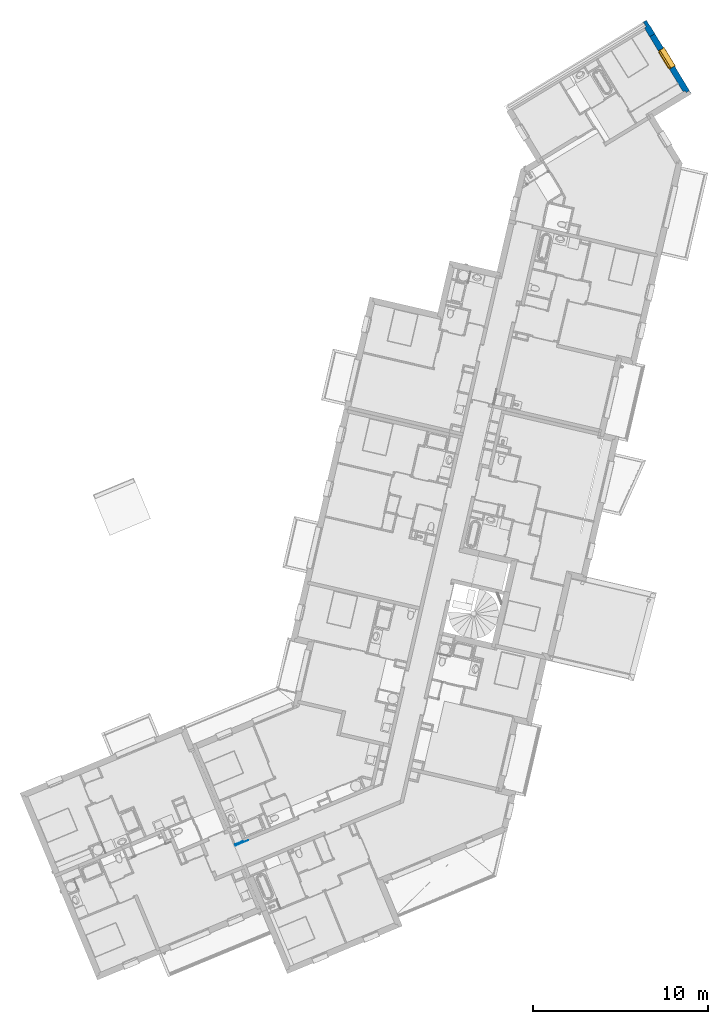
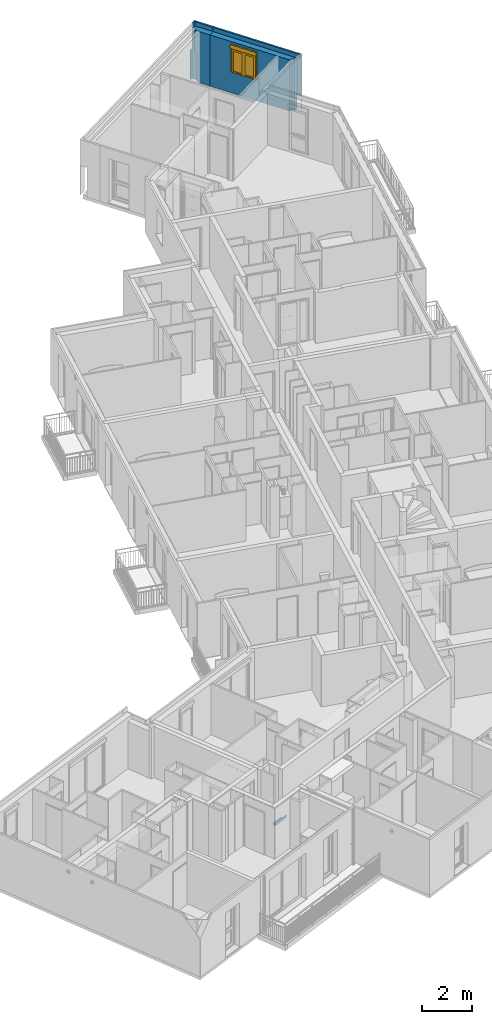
# One storey, part 57 of 90: 3 walls, 1 window, 1 opening.
"""IFC2X3 building model written with IfcOpenShell, lengths in metres."""

from ifc_helpers import new_model, entity, si_unit, converted_unit, derived_unit, money_unit, direction, frame, origin_with_axes, place, context, subcontext, project, spatial, open_shell, faceted_brep, surface_model, material, material_list, type_object, element, fill, save


model = new_model("IFC2X3")

# Units and contexts
model_context = context("Model", 3, precision=1e-05, world=origin_with_axes(), true_north=direction((0.0, 1.0)))
body_context = subcontext(model_context, "Body", "Model", "MODEL_VIEW")
ifc_project = project(units=[si_unit("LENGTHUNIT", "METRE"), si_unit("AREAUNIT", "SQUARE_METRE"), si_unit("VOLUMEUNIT", "CUBIC_METRE"), converted_unit("PLANEANGLEUNIT", "DEGREE", entity("IfcPlaneAngleMeasure", 0.0174532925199), si_unit("PLANEANGLEUNIT", "RADIAN"), dimensions=[0, 0, 0, 0, 0, 0, 0]), si_unit("SOLIDANGLEUNIT", "STERADIAN"), money_unit("EUR"), converted_unit("TIMEUNIT", "Year", entity("IfcTimeMeasure", 31556926.0), si_unit("TIMEUNIT", "SECOND"), dimensions=[0, 0, 1, 0, 0, 0, 0]), si_unit("MASSUNIT", "GRAM", prefix="KILO"), si_unit("THERMODYNAMICTEMPERATUREUNIT", "DEGREE_CELSIUS"), si_unit("LUMINOUSINTENSITYUNIT", "LUMEN"), si_unit("ENERGYUNIT", "JOULE", prefix="MEGA"), derived_unit("THERMALCONDUCTANCEUNIT", [(si_unit("POWERUNIT", "WATT"), 1), (si_unit("LENGTHUNIT", "METRE"), -1), (si_unit("THERMODYNAMICTEMPERATUREUNIT", "KELVIN"), -1)]), derived_unit("SPECIFICHEATCAPACITYUNIT", [(si_unit("ENERGYUNIT", "JOULE"), 1), (si_unit("MASSUNIT", "GRAM", prefix="KILO"), -1), (si_unit("THERMODYNAMICTEMPERATUREUNIT", "KELVIN"), -1)]), derived_unit("MASSDENSITYUNIT", [(si_unit("MASSUNIT", "GRAM", prefix="KILO"), 1), (si_unit("VOLUMEUNIT", "CUBIC_METRE"), -1)])], contexts=[model_context])

# Site, building, storey
site_placement = place(None, origin_with_axes())
site = spatial("IfcSite", under=ifc_project, at=site_placement, Name="Site", CompositionType="ELEMENT")
building_placement = place(site_placement, origin_with_axes())
building = spatial("IfcBuilding", under=site, at=building_placement, Name="Bâtiment", CompositionType="ELEMENT")
storey_placement = place(building_placement, frame((0.0, 0.0, 2.72), z_axis=(0.0, 0.0, 1.0), x_axis=(1.0, 0.0, 0.0)))
storey = spatial("IfcBuildingStorey", under=building, at=storey_placement, Name="R+1", CompositionType="ELEMENT", Elevation=2.72)

# Wall, opening, window
ifc_material_1 = material(Name="Finition ext - Crépis")
ifc_material_2 = material(Name="Béton cellulaire")
ifc_material_3 = material(Name="Mortier")
ifc_material_4 = material(Name="Isolation - Polystyrène expansé")
ifc_material_5 = material(Name="Bloc ELITHERM")
ifc_material_6 = material(Name="Isolation - Polystyrène extrudé")
ifc_material_7 = material(Name="Finition int - Plaque de plâtre")
ifc_material_list_1 = material_list([ifc_material_1, ifc_material_2, ifc_material_3, ifc_material_4, ifc_material_5, ifc_material_6, ifc_material_7])
wall_type_1 = type_object("IfcWallType", Name="Mur ALKERN + planelle 21 345 x 2720", PredefinedType="USERDEFINED")
wall_1_placement = place(storey_placement, frame((0.808991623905, 25.3805096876, 0.0), z_axis=(0.0, 0.0, 1.0), x_axis=(0.519386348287, -0.854539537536, 0.0)))
wall_1 = element("IfcWall", 1, at=wall_1_placement, inside=storey, type_object=wall_type_1, material=ifc_material_list_1, Name="Mue bloc ALKERN isolé", ObjectType="SOLIDWALL", context=body_context, shape_type="Brep", body=[
    faceted_brep([(0.0, 0.0, 0.5), (3.79520777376, 0.0, 0.5), (3.79520777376, 0.0, 0.0), (0.0, 0.0, 0.0), (3.79520777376, -0.0150000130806, 0.5), (0.0, -0.0150000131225, 0.5), (3.79520777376, -0.0150000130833, 0.0), (0.0, -0.0149999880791, 0.0)], [[[0, 1, 2, 3]], [[4, 1, 0, 5]], [[1, 4, 6, 2]], [[3, 2, 6, 7]], [[5, 0, 3, 7]], [[4, 5, 7, 6]]]),
    faceted_brep([(3.99520777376, 0.0, 0.5), (3.99939258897, 0.0, 0.5), (3.99939258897, 0.0, 0.0), (3.99520777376, 0.0, 0.0), (3.99939258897, -0.0150000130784, 0.5), (3.99520777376, -0.0150000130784, 0.5), (3.99939258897, -0.0149999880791, 0.0), (3.99520777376, -0.0150000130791, 0.0)], [[[0, 1, 2, 3]], [[4, 1, 0, 5]], [[1, 4, 6, 2]], [[6, 7, 3, 2]], [[5, 0, 3, 7]], [[4, 5, 7, 6]]]),
    faceted_brep([(0.0, 0.0, 2.72), (3.99939258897, 0.0, 2.72), (3.99939258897, 0.0, 0.65), (0.0, 0.0, 0.65), (0.954999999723, 0.0, 0.96), (2.15499999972, 0.0, 0.96), (2.15499999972, 0.0, 1.02), (2.15499999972, 0.0, 2.22), (0.954999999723, 0.0, 2.22), (0.954999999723, 0.0, 1.02), (0.0, -0.0149999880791, 2.72), (3.99939258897, -0.0149999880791, 2.72), (3.99939258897, -0.0150000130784, 0.65), (0.0, -0.0150000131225, 0.65), (0.954999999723, -0.0150000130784, 0.96), (2.15499999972, -0.0150000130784, 0.96), (2.15499999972, -0.0150000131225, 1.02), (2.15499999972, -0.0150000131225, 2.22), (0.954999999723, -0.0150000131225, 2.22), (0.954999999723, -0.0150000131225, 1.02)], [[[0, 1, 2, 3], [4, 5, 6, 7, 8, 9]], [[1, 0, 10, 11]], [[1, 11, 12, 2]], [[12, 13, 3, 2]], [[10, 0, 3, 13]], [[5, 4, 14, 15]], [[6, 5, 15, 16, 17, 7]], [[7, 17, 18, 8]], [[19, 14, 4, 9, 8, 18]], [[11, 10, 13, 12], [14, 19, 18, 17, 16, 15]]]),
    faceted_brep([(3.95139257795, -0.0629999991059, 2.72), (3.95139257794, -0.015, 2.72), (0.0, -0.015, 2.72), (0.0, -0.0629999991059, 2.72), (3.95139257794, -0.015, 2.51999999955), (3.95139257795, -0.0629999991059, 2.51999999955), (0.0, -0.015, 2.51999999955), (0.0, -0.0629999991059, 2.51999999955)], [[[0, 1, 2, 3]], [[4, 1, 0, 5]], [[1, 4, 6, 2]], [[6, 7, 3, 2]], [[5, 0, 3, 7]], [[4, 5, 7, 6]]]),
    faceted_brep([(3.93139257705, -0.083, 2.52), (3.93139257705, -0.015, 2.52), (0.0, -0.015, 2.52), (0.0, -0.083, 2.52), (3.93139257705, -0.015, 2.51), (3.93139257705, -0.083, 2.51), (0.0, -0.015, 2.51), (0.0, -0.083, 2.51)], [[[0, 1, 2, 3]], [[4, 1, 0, 5]], [[1, 4, 6, 2]], [[7, 3, 2, 6]], [[5, 0, 3, 7]], [[4, 5, 7, 6]]]),
    faceted_brep([(0.0, -0.083000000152, 2.72), (3.9313925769, -0.083000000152, 2.72), (3.9313925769, -0.0630000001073, 2.72), (0.0, -0.0630000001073, 2.72), (0.0, -0.083000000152, 2.51999999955), (3.9313925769, -0.083000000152, 2.51999999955), (3.9313925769, -0.0630000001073, 2.51999999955), (0.0, -0.0630000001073, 2.51999999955)], [[[0, 1, 2, 3]], [[4, 5, 1, 0]], [[5, 6, 2, 1]], [[3, 2, 6, 7]], [[4, 0, 3, 7]], [[7, 6, 5, 4]]]),
    faceted_brep([(0.0, -0.015, 0.0), (0.0, -0.015, 2.50999999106), (3.79939258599, -0.015, 2.50999999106), (3.79939258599, -0.015, 0.0), (0.954999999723, -0.015, 0.96), (2.15499999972, -0.015, 0.96), (2.15499999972, -0.015, 1.02), (2.15499999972, -0.015, 2.22), (0.954999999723, -0.015, 2.22), (0.954999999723, -0.015, 1.02), (0.0, -0.214999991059, 2.50999999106), (0.0, -0.0829999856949, 2.50999999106), (0.0, -0.214999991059, 0.0), (3.79939258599, -0.0829999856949, 2.50999999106), (3.799392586, -0.214999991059, 0.0), (3.799392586, -0.214999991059, 2.50999999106), (0.954999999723, -0.214999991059, 0.96), (2.15499999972, -0.214999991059, 0.96), (2.15499999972, -0.214999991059, 1.02), (2.15499999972, -0.214999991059, 2.22), (0.954999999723, -0.214999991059, 2.22), (0.954999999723, -0.214999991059, 1.02)], [[[0, 1, 2, 3], [4, 5, 6, 7, 8, 9]], [[10, 11, 1, 0, 12]], [[1, 11, 13, 2]], [[14, 3, 2, 13, 15]], [[12, 0, 3, 14]], [[5, 4, 16, 17]], [[6, 5, 17, 18, 19, 7]], [[7, 19, 20, 8]], [[21, 16, 4, 9, 8, 20]], [[11, 10, 15, 13]], [[10, 12, 14, 15], [16, 21, 20, 19, 18, 17]]]),
    faceted_brep([(0.0, -0.215000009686, 2.51), (3.67939256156, -0.215000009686, 2.51), (3.67939256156, -0.215000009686, 0.0), (0.0, -0.215000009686, 0.0), (0.954999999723, -0.215000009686, 0.96), (2.15499999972, -0.215000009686, 0.96), (2.15499999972, -0.215000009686, 1.02), (2.15499999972, -0.215, 2.22), (2.15499999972, -0.215, 2.4), (0.954999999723, -0.215, 2.4), (0.954999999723, -0.215, 2.22), (0.954999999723, -0.215000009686, 1.02), (0.0, -0.335000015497, 2.51), (3.67939256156, -0.335000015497, 2.51), (3.67939256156, -0.335000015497, 0.0), (0.0, -0.335000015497, 0.0), (0.954999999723, -0.286, 0.96), (2.15499999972, -0.286, 0.96), (2.15499999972, -0.286, 1.02), (2.15499999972, -0.335000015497, 1.02), (2.15499999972, -0.335000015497, 2.22), (2.15499999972, -0.335000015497, 2.4), (0.954999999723, -0.335000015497, 2.4), (0.954999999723, -0.286, 1.02), (0.954999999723, -0.335000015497, 2.22), (0.954999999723, -0.335000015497, 1.02)], [[[0, 1, 2, 3], [4, 5, 6, 7, 8, 9, 10, 11]], [[12, 13, 1, 0]], [[14, 2, 1, 13]], [[3, 2, 14, 15]], [[3, 15, 12, 0]], [[5, 4, 16, 17]], [[6, 5, 17, 18, 19, 20, 21, 8, 7]], [[8, 21, 22, 9]], [[23, 16, 4, 11, 10, 9, 22, 24, 25]], [[15, 14, 13, 12], [25, 24, 22, 21, 20, 19]], [[23, 18, 17, 16]], [[18, 23, 25, 19]]]),
    faceted_brep([(3.66939258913, -0.335000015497, 0.0), (0.0, -0.335000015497, 0.0), (0.0, -0.335000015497, 2.51), (3.66939258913, -0.335000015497, 2.51), (0.954999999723, -0.335000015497, 2.4), (0.954999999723, -0.335000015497, 2.22), (0.954999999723, -0.335000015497, 1.02), (2.15499999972, -0.335000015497, 1.02), (2.15499999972, -0.335000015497, 2.22), (2.15499999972, -0.335000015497, 2.4), (3.66939258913, -0.34499998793, 0.0), (0.0, -0.34499998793, 0.0), (0.0, -0.34499998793, 2.51), (3.66939258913, -0.34499998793, 2.51), (0.954999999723, -0.34499998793, 2.4), (0.954999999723, -0.34499998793, 2.22), (0.954999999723, -0.34499998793, 1.02), (2.15499999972, -0.34499998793, 1.02), (2.15499999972, -0.34499998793, 2.22), (2.15499999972, -0.34499998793, 2.4)], [[[0, 1, 2, 3], [4, 5, 6, 7, 8, 9]], [[10, 11, 1, 0]], [[12, 2, 1, 11]], [[3, 2, 12, 13]], [[3, 13, 10, 0]], [[5, 4, 14, 15, 16, 6]], [[6, 16, 17, 7]], [[18, 19, 9, 8, 7, 17]], [[4, 9, 19, 14]], [[13, 12, 11, 10], [19, 18, 17, 16, 15, 14]]]),
])
opening_placement = place(wall_1_placement, frame((1.55499999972, 0.0, 1.02), z_axis=(0.0, 0.0, 1.0), x_axis=(1.0, 0.0, 0.0)))
opening = element("IfcOpeningElement", 2, at=opening_placement, cuts=wall_1, Name="MEN 40", context=body_context, shape_type="Brep", body=[
    faceted_brep([(-0.6, -0.83499998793, 0.0), (-0.6, -0.83499998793, 1.2), (-0.6, -0.245, 1.2), (-0.6, -0.245, 0.0), (0.6, -0.83499998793, 0.0), (0.6, -0.83499998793, 1.2), (0.6, -0.245, 1.2), (0.6, -0.245, 0.0)], [[[0, 1, 2, 3]], [[0, 4, 5, 1]], [[1, 5, 6, 2]], [[3, 2, 6, 7]], [[4, 0, 3, 7]], [[5, 4, 7, 6]]]),
    faceted_brep([(-0.6, 0.34499998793, 0.0), (0.6, 0.34499998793, 0.0), (0.6, -0.245, 0.0), (-0.6, -0.245, 0.0), (-0.6, 0.34499998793, 1.2), (0.6, 0.34499998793, 1.2), (0.6, -0.245, 1.2), (-0.6, -0.245, 1.2)], [[[0, 1, 2, 3]], [[0, 4, 5, 1]], [[1, 5, 6, 2]], [[3, 2, 6, 7]], [[4, 0, 3, 7]], [[5, 4, 7, 6]]]),
    faceted_brep([(-0.6, 0.34499998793, 0.0), (0.6, 0.34499998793, 0.0), (0.6, -0.245, 0.0), (-0.6, -0.245, 0.0), (-0.6, 0.34499998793, 1.2), (0.6, 0.34499998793, 1.2), (0.6, -0.245, 1.2), (-0.6, -0.245, 1.2)], [[[0, 1, 2, 3]], [[0, 4, 5, 1]], [[1, 5, 6, 2]], [[3, 2, 6, 7]], [[4, 0, 3, 7]], [[5, 4, 7, 6]]]),
    faceted_brep([(-0.6, -0.80499998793, 1.2), (-0.6, -0.80499998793, 1.38), (-0.6, -0.215, 1.38), (-0.6, -0.215, 1.2), (0.6, -0.80499998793, 1.2), (0.6, -0.80499998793, 1.38), (0.6, -0.215, 1.38), (0.6, -0.215, 1.2)], [[[0, 1, 2, 3]], [[0, 4, 5, 1]], [[1, 5, 6, 2]], [[3, 2, 6, 7]], [[4, 0, 3, 7]], [[5, 4, 7, 6]]]),
    faceted_brep([(-0.6, 0.30399998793, 0.0), (-0.6, 0.30399998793, -0.06), (-0.6, -0.286, -0.06), (-0.6, -0.286, 0.0), (0.6, 0.30399998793, 0.0), (0.6, 0.30399998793, -0.06), (0.6, -0.286, -0.06), (0.6, -0.286, 0.0)], [[[0, 1, 2, 3]], [[0, 4, 5, 1]], [[1, 5, 6, 2]], [[3, 2, 6, 7]], [[4, 0, 3, 7]], [[5, 4, 7, 6]]]),
])
window_style = type_object("IfcWindowStyle", Name="Baie générique 2017 v2", ConstructionType="NOTDEFINED", OperationType="NOTDEFINED", ParameterTakesPrecedence=False, Sizeable=False)
window_placement = place(opening_placement, frame((-0.6, 0.0, 0.0), z_axis=(0.0, 0.0, 1.0), x_axis=(1.0, 0.0, 0.0)))
window = element("IfcWindow", 3, at=window_placement, inside=storey, type_object=window_style, Name="MEN 40", ObjectType="WINDOW", OverallHeight=1.2, OverallWidth=1.2, context=body_context, shape_type="SurfaceModel", body=[
    faceted_brep([(0.0, -0.345, 0.0), (0.0, -0.245, 0.0), (1.2, -0.245, 0.0), (1.2, -0.345, 0.0), (0.0, -0.345, 1.2), (0.0, -0.245, 1.2), (1.2, -0.245, 1.2), (0.06, -0.245, 0.05), (1.14, -0.245, 0.05), (1.14, -0.245, 1.15), (0.06, -0.245, 1.15), (1.2, -0.345, 1.2), (0.06, -0.345, 0.05), (0.06, -0.345, 1.15), (1.14, -0.345, 1.15), (1.14, -0.345, 0.05)], [[[0, 1, 2, 3]], [[4, 5, 1, 0]], [[1, 5, 6, 2], [7, 8, 9, 10]], [[3, 2, 6, 11]], [[0, 3, 11, 4], [12, 13, 14, 15]], [[11, 6, 5, 4]], [[15, 8, 7, 12]], [[14, 9, 8, 15]], [[13, 10, 9, 14]], [[12, 7, 10, 13]]]),
    faceted_brep([(1.07, -0.335, 1.08), (1.07, -0.335, 0.1), (1.07, -0.385, 0.1), (1.07, -0.385, 1.08), (1.14, -0.335, 1.15), (1.14, -0.335, 0.05), (0.6001, -0.335, 0.05), (0.6001, -0.335, 1.15), (0.67, -0.335, 1.08), (0.67, -0.335, 0.1), (0.67, -0.385, 0.1), (1.15001249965, -0.385000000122, 0.039987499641), (1.15001249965, -0.385000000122, 1.16001250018), (0.6001, -0.385000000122, 1.16001250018), (0.6001, -0.385000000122, 0.039987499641), (0.67, -0.385, 1.08), (1.14, -0.34505, 0.05), (1.14, -0.34505, 1.15), (0.6001, -0.34505, 0.05), (0.6001, -0.34505, 1.17), (0.6001, -0.34505, 1.15), (0.6001, -0.34505, 0.03), (1.16, -0.34505, 0.03), (1.16, -0.34505, 1.17)], [[[0, 1, 2, 3]], [[4, 5, 6, 7], [0, 8, 9, 1]], [[9, 10, 2, 1]], [[11, 12, 13, 14], [2, 10, 15, 3]], [[8, 0, 3, 15]], [[16, 5, 4, 17]], [[18, 6, 5, 16]], [[13, 19, 20, 7, 6, 18, 21, 14]], [[17, 4, 7, 20]], [[8, 15, 10, 9]], [[12, 11, 22, 23]], [[19, 13, 12, 23]], [[11, 14, 21, 22]], [[23, 22, 21, 18, 16, 17, 20, 19]]]),
    surface_model("IfcShellBasedSurfaceModel", [(1.14, -0.385, 0.05), (1.14, -0.385, 1.15), (1.14, -0.36, 1.15), (1.14, -0.36, 0.05)], [open_shell([[[0, 1, 2, 3]]])]),
    surface_model("IfcShellBasedSurfaceModel", [(0.6001, -0.36, 0.05), (0.6001, -0.385, 0.05), (1.14, -0.385, 0.05), (1.14, -0.36, 0.05)], [open_shell([[[0, 1, 2, 3]]])]),
    surface_model("IfcShellBasedSurfaceModel", [(0.6001, -0.36, 1.15), (0.6001, -0.385, 1.15), (1.14, -0.385, 1.15), (1.14, -0.36, 1.15)], [open_shell([[[0, 1, 2, 3]]])]),
    surface_model("IfcShellBasedSurfaceModel", [(1.14, -0.36, 0.05), (1.14, -0.36, 1.15), (1.14, -0.335, 1.15), (1.14, -0.335, 0.05)], [open_shell([[[0, 1, 2, 3]]])]),
    surface_model("IfcShellBasedSurfaceModel", [(0.6001, -0.335, 0.05), (0.6001, -0.36, 0.05), (1.14, -0.36, 0.05), (1.14, -0.335, 0.05)], [open_shell([[[0, 1, 2, 3]]])]),
    surface_model("IfcShellBasedSurfaceModel", [(0.6001, -0.335, 1.15), (0.6001, -0.36, 1.15), (1.14, -0.36, 1.15), (1.14, -0.335, 1.15)], [open_shell([[[0, 1, 2, 3]]])]),
    faceted_brep([(0.67, -0.3625, 0.1), (0.67, -0.3575, 0.1), (1.07, -0.3575, 0.1), (1.07, -0.3625, 0.1), (0.67, -0.3625, 1.08), (0.67, -0.3575, 1.08), (1.07, -0.3575, 1.08), (1.07, -0.3625, 1.08)], [[[0, 1, 2, 3]], [[4, 5, 1, 0]], [[1, 5, 6, 2]], [[3, 2, 6, 7]], [[0, 3, 7, 4]], [[7, 6, 5, 4]]]),
    faceted_brep([(0.6175, -0.3349, 0.053), (0.6175, -0.318333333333, 0.053), (0.6175, -0.318333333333, 1.147), (0.6175, -0.3349, 1.147), (0.5825, -0.3349, 0.053), (0.5825, -0.318333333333, 0.053), (0.5825, -0.318333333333, 1.147), (0.5825, -0.3349, 1.147)], [[[0, 1, 2, 3]], [[0, 4, 5, 1]], [[1, 5, 6, 2]], [[3, 2, 6, 7]], [[4, 0, 3, 7]], [[5, 4, 7, 6]]]),
    faceted_brep([(0.13, -0.335, 1.08), (0.13, -0.385, 1.08), (0.13, -0.385, 0.1), (0.13, -0.335, 0.1), (0.53, -0.335, 1.08), (0.53, -0.385, 1.08), (0.0499875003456, -0.385000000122, 0.039987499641), (0.6001, -0.385000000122, 0.039987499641), (0.6001, -0.385000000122, 1.16001250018), (0.0499875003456, -0.385000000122, 1.16001250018), (0.53, -0.385, 0.1), (0.53, -0.335, 0.1), (0.06, -0.335, 1.15), (0.6, -0.335, 1.15), (0.6, -0.335, 0.05), (0.06, -0.335, 0.05), (0.04, -0.34505, 0.03), (0.6001, -0.34505, 0.03), (0.6001, -0.34505, 1.17), (0.04, -0.34505, 1.17), (0.06, -0.34505, 1.15), (0.6, -0.34505, 1.15), (0.6, -0.34505, 0.05), (0.06, -0.34505, 0.05)], [[[0, 1, 2, 3]], [[4, 5, 1, 0]], [[6, 7, 8, 9], [2, 1, 5, 10]], [[11, 3, 2, 10]], [[12, 13, 14, 15], [0, 3, 11, 4]], [[4, 11, 10, 5]], [[6, 16, 17, 7]], [[8, 7, 17, 18]], [[8, 18, 19, 9]], [[9, 19, 16, 6]], [[20, 21, 13, 12]], [[21, 22, 14, 13]], [[22, 23, 15, 14]], [[23, 20, 12, 15]], [[19, 18, 17, 16], [21, 20, 23, 22]]]),
    surface_model("IfcShellBasedSurfaceModel", [(0.6, -0.385, 0.05), (0.6, -0.36, 0.05), (0.6, -0.36, 1.15), (0.6, -0.385, 1.15)], [open_shell([[[0, 1, 2, 3]]])]),
    surface_model("IfcShellBasedSurfaceModel", [(0.06, -0.385, 0.05), (0.06, -0.36, 0.05), (0.06, -0.36, 1.15), (0.06, -0.385, 1.15)], [open_shell([[[0, 1, 2, 3]]])]),
    surface_model("IfcShellBasedSurfaceModel", [(0.6, -0.385, 0.05), (0.6, -0.36, 0.05), (0.06, -0.36, 0.05), (0.06, -0.385, 0.05)], [open_shell([[[0, 1, 2, 3]]])]),
    surface_model("IfcShellBasedSurfaceModel", [(0.6, -0.385, 1.15), (0.6, -0.36, 1.15), (0.06, -0.36, 1.15), (0.06, -0.385, 1.15)], [open_shell([[[0, 1, 2, 3]]])]),
    surface_model("IfcShellBasedSurfaceModel", [(0.6, -0.36, 0.05), (0.6, -0.335, 0.05), (0.6, -0.335, 1.15), (0.6, -0.36, 1.15)], [open_shell([[[0, 1, 2, 3]]])]),
    surface_model("IfcShellBasedSurfaceModel", [(0.06, -0.36, 0.05), (0.06, -0.335, 0.05), (0.06, -0.335, 1.15), (0.06, -0.36, 1.15)], [open_shell([[[0, 1, 2, 3]]])]),
    surface_model("IfcShellBasedSurfaceModel", [(0.6, -0.36, 0.05), (0.6, -0.335, 0.05), (0.06, -0.335, 0.05), (0.06, -0.36, 0.05)], [open_shell([[[0, 1, 2, 3]]])]),
    surface_model("IfcShellBasedSurfaceModel", [(0.6, -0.36, 1.15), (0.6, -0.335, 1.15), (0.06, -0.335, 1.15), (0.06, -0.36, 1.15)], [open_shell([[[0, 1, 2, 3]]])]),
    faceted_brep([(0.53, -0.3625, 0.1), (0.13, -0.3625, 0.1), (0.13, -0.3575, 0.1), (0.53, -0.3575, 0.1), (0.53, -0.3625, 1.08), (0.13, -0.3625, 1.08), (0.13, -0.3575, 1.08), (0.53, -0.3575, 1.08)], [[[0, 1, 2, 3]], [[0, 4, 5, 1]], [[1, 5, 6, 2]], [[3, 2, 6, 7]], [[4, 0, 3, 7]], [[5, 4, 7, 6]]]),
    faceted_brep([(0.0, -0.215, 0.0), (0.0, -0.215, 1.2), (0.025, -0.215, 1.2), (0.025, -0.215, 0.0), (0.0, -0.243, 0.0), (0.0, -0.243, 1.2), (0.025, -0.243, 1.2), (0.025, -0.241, 1.2), (0.002, -0.241, 1.2), (0.002, -0.217, 1.2), (0.025, -0.217, 1.2), (0.025, -0.217, 0.0), (0.002, -0.217, 0.0), (0.002, -0.241, 0.0), (0.025, -0.241, 0.0), (0.025, -0.243, 0.0)], [[[0, 1, 2, 3]], [[4, 5, 1, 0]], [[1, 5, 6, 7, 8, 9, 10, 2]], [[3, 2, 10, 11]], [[0, 3, 11, 12, 13, 14, 15, 4]], [[15, 6, 5, 4]], [[14, 7, 6, 15]], [[13, 8, 7, 14]], [[12, 9, 8, 13]], [[11, 10, 9, 12]]]),
    faceted_brep([(1.2, -0.215, 0.0), (1.175, -0.215, 0.0), (1.175, -0.215, 1.2), (1.2, -0.215, 1.2), (1.2, -0.243, 0.0), (1.175, -0.243, 0.0), (1.175, -0.241, 0.0), (1.198, -0.241, 0.0), (1.198, -0.217, 0.0), (1.175, -0.217, 0.0), (1.175, -0.217, 1.2), (1.198, -0.217, 1.2), (1.198, -0.241, 1.2), (1.175, -0.241, 1.2), (1.175, -0.243, 1.2), (1.2, -0.243, 1.2)], [[[0, 1, 2, 3]], [[0, 4, 5, 6, 7, 8, 9, 1]], [[1, 9, 10, 2]], [[3, 2, 10, 11, 12, 13, 14, 15]], [[4, 0, 3, 15]], [[5, 4, 15, 14]], [[6, 5, 14, 13]], [[7, 6, 13, 12]], [[8, 7, 12, 11]], [[9, 8, 11, 10]]]),
    faceted_brep([(1.198, -0.217, 1.2), (1.198, -0.217, 1.378), (0.002, -0.217, 1.378), (0.002, -0.217, 1.2), (1.198, -0.215, 1.2), (1.198, -0.215, 1.38), (1.198, -0.415, 1.38), (1.198, -0.415, 1.2), (1.198, -0.413, 1.2), (1.198, -0.413, 1.378), (0.002, -0.413, 1.378), (0.002, -0.413, 1.2), (0.002, -0.415, 1.2), (0.002, -0.415, 1.38), (0.002, -0.215, 1.38), (0.002, -0.215, 1.2)], [[[0, 1, 2, 3]], [[0, 4, 5, 6, 7, 8, 9, 1]], [[1, 9, 10, 2]], [[3, 2, 10, 11, 12, 13, 14, 15]], [[4, 0, 3, 15]], [[5, 4, 15, 14]], [[6, 5, 14, 13]], [[7, 6, 13, 12]], [[8, 7, 12, 11]], [[9, 8, 11, 10]]]),
    faceted_brep([(1.198, -0.317469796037, 1.27436337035), (1.198, -0.300549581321, 1.27050144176), (1.198, -0.286980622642, 1.28132232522), (1.198, -0.286980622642, 1.29867767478), (1.198, -0.300549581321, 1.30949855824), (1.198, -0.317469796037, 1.30563662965), (1.198, -0.325, 1.29), (0.002, -0.317469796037, 1.27436337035), (0.002, -0.300549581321, 1.27050144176), (0.002, -0.286980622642, 1.28132232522), (0.002, -0.286980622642, 1.29867767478), (0.002, -0.300549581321, 1.30949855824), (0.002, -0.317469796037, 1.30563662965), (0.002, -0.325, 1.29)], [[[0, 1, 2, 3, 4, 5, 6]], [[1, 0, 7, 8]], [[2, 1, 8, 9]], [[3, 2, 9, 10]], [[4, 3, 10, 11]], [[5, 4, 11, 12]], [[6, 5, 12, 13]], [[0, 6, 13, 7]], [[7, 13, 12, 11, 10, 9, 8]]]),
    faceted_brep([(1.188, -0.375275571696, 1.25615706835), (1.188, -0.353632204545, 1.22901714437), (1.188, -0.322356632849, 1.21395562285), (1.188, -0.287643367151, 1.21395562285), (1.188, -0.256367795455, 1.22901714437), (1.188, -0.234724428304, 1.25615706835), (1.188, -0.227, 1.29), (1.188, -0.234724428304, 1.32384293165), (1.188, -0.256367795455, 1.35098285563), (1.188, -0.287643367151, 1.36604437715), (1.188, -0.322356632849, 1.36604437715), (1.188, -0.353632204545, 1.35098285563), (1.188, -0.375275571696, 1.32384293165), (1.188, -0.383, 1.29), (0.012, -0.375275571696, 1.25615706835), (0.012, -0.353632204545, 1.22901714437), (0.012, -0.322356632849, 1.21395562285), (0.012, -0.287643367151, 1.21395562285), (0.012, -0.256367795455, 1.22901714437), (0.012, -0.234724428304, 1.25615706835), (0.012, -0.227, 1.29), (0.012, -0.234724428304, 1.32384293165), (0.012, -0.256367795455, 1.35098285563), (0.012, -0.287643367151, 1.36604437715), (0.012, -0.322356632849, 1.36604437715), (0.012, -0.353632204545, 1.35098285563), (0.012, -0.375275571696, 1.32384293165), (0.012, -0.383, 1.29)], [[[0, 1, 2, 3, 4, 5, 6, 7, 8, 9, 10, 11, 12, 13]], [[1, 0, 14, 15]], [[2, 1, 15, 16]], [[3, 2, 16, 17]], [[4, 3, 17, 18]], [[5, 4, 18, 19]], [[6, 5, 19, 20]], [[7, 6, 20, 21]], [[8, 7, 21, 22]], [[9, 8, 22, 23]], [[10, 9, 23, 24]], [[11, 10, 24, 25]], [[12, 11, 25, 26]], [[13, 12, 26, 27]], [[0, 13, 27, 14]], [[14, 27, 26, 25, 24, 23, 22, 21, 20, 19, 18, 17, 16, 15]]]),
    faceted_brep([(1.2, -0.415, 1.2), (1.2, -0.415, 1.38), (1.198, -0.415, 1.38), (1.198, -0.415, 1.2), (1.2, -0.215, 1.2), (1.2, -0.215, 1.38), (1.198, -0.215, 1.38), (1.198, -0.215, 1.2)], [[[0, 1, 2, 3]], [[0, 4, 5, 1]], [[1, 5, 6, 2]], [[3, 2, 6, 7]], [[4, 0, 3, 7]], [[5, 4, 7, 6]]]),
    faceted_brep([(0.002, -0.415, 1.2), (0.002, -0.415, 1.38), (0.0, -0.415, 1.38), (0.0, -0.415, 1.2), (0.002, -0.215, 1.2), (0.002, -0.215, 1.38), (0.0, -0.215, 1.38), (0.0, -0.215, 1.2)], [[[0, 1, 2, 3]], [[0, 4, 5, 1]], [[1, 5, 6, 2]], [[3, 2, 6, 7]], [[4, 0, 3, 7]], [[5, 4, 7, 6]]]),
    faceted_brep([(1.198, -0.241, 1.2), (1.198, -0.413, 1.2), (0.002, -0.413, 1.2), (0.002, -0.241, 1.2), (1.198, -0.241, 1.202), (1.198, -0.413, 1.202), (0.002, -0.413, 1.202), (0.002, -0.241, 1.202)], [[[0, 1, 2, 3]], [[0, 4, 5, 1]], [[1, 5, 6, 2]], [[3, 2, 6, 7]], [[4, 0, 3, 7]], [[5, 4, 7, 6]]]),
    faceted_brep([(0.012, -0.239, 1.29), (0.012, -0.239, 1.2), (1.188, -0.239, 1.2), (1.188, -0.239, 1.29), (0.012, -0.219, 1.29), (0.012, -0.219, 1.2), (1.188, -0.219, 1.2), (1.188, -0.219, 1.29)], [[[0, 1, 2, 3]], [[1, 0, 4, 5]], [[1, 5, 6, 2]], [[3, 2, 6, 7]], [[0, 3, 7, 4]], [[5, 4, 7, 6]]]),
    faceted_brep([(1.2, -0.243320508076, -0.01), (0.0, -0.243320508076, -0.01), (0.0, -0.245, -0.00373205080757), (-0.04, -0.245, -0.00373205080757), (-0.04, -0.246, 0.0), (1.24, -0.246, 0.0), (1.24, -0.245, -0.00373205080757), (1.2, -0.245, -0.00373205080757), (1.2, -0.236, -0.0173205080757), (0.0, -0.236, -0.0173205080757), (0.0, 0.0, -0.02), (0.0, 0.0, -0.06), (0.0, -0.245, -0.06), (0.0, -0.226, -0.02), (-0.04, -0.245, -0.06), (-0.04, -0.286, -0.06), (-0.04, -0.286, 0.0), (1.24, -0.286, 0.0), (1.24, -0.286, -0.06), (1.24, -0.245, -0.06), (1.2, -0.245, -0.06), (1.2, 0.0, -0.06), (1.2, 0.0, -0.02), (1.2, -0.226, -0.02), (-0.04, 0.0, -0.02), (-0.04, 0.0, -0.06), (-0.04, 0.03, -0.06), (1.24, 0.03, -0.06), (1.24, 0.0, -0.06), (1.24, 0.0, -0.02), (1.24, 0.04, -0.02), (-0.04, 0.04, -0.02), (-0.04, 0.05, -0.03), (-0.04, 0.05, -0.06), (-0.04, 0.04, -0.06), (-0.04, 0.04, -0.05), (-0.04, 0.03, -0.05), (-0.04, 0.0470710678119, -0.0229289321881), (1.24, 0.03, -0.05), (1.24, 0.04, -0.05), (1.24, 0.04, -0.06), (1.24, 0.05, -0.06), (1.24, 0.05, -0.03), (1.24, 0.0470710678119, -0.0229289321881)], [[[0, 1, 2, 3, 4, 5, 6, 7]], [[8, 9, 1, 0]], [[10, 11, 12, 2, 1, 9, 13]], [[3, 2, 12, 14]], [[4, 3, 14, 15, 16]], [[16, 17, 5, 4]], [[6, 5, 17, 18, 19]], [[19, 20, 7, 6]], [[7, 20, 21, 22, 23, 8, 0]], [[23, 13, 9, 8]], [[10, 24, 25, 11]], [[21, 20, 19, 18, 15, 14, 12, 11, 25, 26, 27, 28]], [[22, 29, 30, 31, 24, 10, 13, 23]], [[15, 18, 17, 16]], [[22, 21, 28, 29]], [[32, 33, 34, 35, 36, 26, 25, 24, 31, 37]], [[36, 38, 27, 26]], [[28, 27, 38, 39, 40, 41, 42, 43, 30, 29]], [[31, 30, 43, 37]], [[32, 42, 41, 33]], [[33, 41, 40, 34]], [[34, 40, 39, 35]], [[35, 39, 38, 36]], [[37, 43, 42, 32]]]),
])
fill(opening, window)

# Walls
ifc_material_8 = material(Name="Cloison - Carreaux de plâtre")
wall_type_2 = type_object("IfcWallType", Name="Cloison - Carreaux de plâtre 74", PredefinedType="USERDEFINED")
wall_2_placement = place(storey_placement, frame((-23.1735961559, -20.9432584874, 0.0), z_axis=(0.0, 0.0, 1.0), x_axis=(0.923701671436, 0.383112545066, 0.0)))
element("IfcWall", 4, at=wall_2_placement, inside=storey, type_object=wall_type_2, material=ifc_material_8, Name="Carreaux de plâtre 8cm", ObjectType="PARTITIONING", context=body_context, shape_type="Brep", body=[
    faceted_brep([(0.845366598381, -0.01, 0.15), (0.845366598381, -0.01, 0.0), (0.845366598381, -5.08661557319e-10, 0.0), (0.845366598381, -4.99277064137e-10, 0.15), (0.074, -0.01, 0.15), (0.074, -0.01, 0.0), (0.074, 0.064, 0.0), (0.555366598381, 0.064, 0.0), (0.555366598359, -4.96024554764e-10, 0.0), (0.555366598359, -4.96024554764e-10, 0.15), (0.555366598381, 0.064, 0.15), (0.074, 0.064, 0.15)], [[[0, 1, 2, 3]], [[1, 0, 4, 5]], [[6, 7, 8, 2, 1, 5]], [[2, 8, 9, 3]], [[0, 3, 9, 10, 11, 4]], [[4, 11, 6, 5]], [[6, 11, 10, 7]], [[8, 7, 10, 9]]]),
])
ifc_material_9 = material(Name="Béton")
ifc_material_10 = material(Name="Etanchéité résine")
ifc_material_list_2 = material_list([ifc_material_1, ifc_material_9, ifc_material_10, ifc_material_6, ifc_material_7])
wall_type_3 = type_object("IfcWallType", Name="1 - Mur Extérieur BETON étanché+Isolant 120 + ravalement 345", PredefinedType="USERDEFINED")
wall_3_placement = place(storey_placement, frame((0.321042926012, 26.1544450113, 0.0), z_axis=(0.0, 0.0, 1.0), x_axis=(0.519386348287, -0.854539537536, 0.0)))
element("IfcWall", 5, at=wall_3_placement, inside=storey, type_object=wall_type_3, material=ifc_material_list_2, Name="M_Ext-007", ObjectType="SOLIDWALL", context=body_context, shape_type="Brep", body=[
    faceted_brep([(0.315000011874, 0.015, 0.5), (0.915000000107, 0.015, 0.5), (0.915000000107, 0.015, 0.0), (0.315000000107, 0.0149999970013, 0.0), (0.915000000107, 0.0, 0.5), (0.315000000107, 0.0, 0.5), (0.915000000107, 0.0, 0.0), (0.315000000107, 0.0, 0.0)], [[[0, 1, 2, 3]], [[4, 1, 0, 5]], [[1, 4, 6, 2]], [[6, 7, 3, 2]], [[5, 0, 3, 7]], [[4, 5, 7, 6]]]),
    faceted_brep([(0.915000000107, 0.0, 0.65), (0.915000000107, 0.015, 0.649999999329), (0.915000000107, 0.015, 2.72), (0.915000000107, 0.0, 2.72), (0.315000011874, 0.015, 0.649999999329), (0.315000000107, 0.0, 0.65), (0.315000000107, 0.014999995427, 1.35), (0.0150000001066, 0.014999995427, 1.35), (0.0150000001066, 0.014999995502, 0.0), (0.0, 0.014999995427, 0.0), (-7.971113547e-09, 0.014999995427, 1.44999999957), (-7.971113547e-09, 0.015, 2.72), (-7.97064103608e-09, 0.0, 2.72), (-7.97064103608e-09, 0.0, 1.44999999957), (0.0, 0.0, 0.0), (0.0150000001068, 0.0, 0.0), (0.0150000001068, 0.0, 1.35), (0.315000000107, 0.0, 1.35)], [[[0, 1, 2, 3]], [[4, 1, 0, 5]], [[1, 4, 6, 7, 8, 9, 10, 11, 2]], [[3, 2, 11, 12]], [[5, 0, 3, 12, 13, 14, 15, 16, 17]], [[4, 5, 17, 6]], [[16, 7, 6, 17]], [[15, 8, 7, 16]], [[9, 8, 15, 14]], [[9, 14, 13, 10]], [[10, 13, 12, 11]]]),
    faceted_brep([(0.0830000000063, -0.2, 2.72), (0.0830000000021, -0.0680000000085, 2.72), (0.915000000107, -0.068000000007, 2.72), (0.915000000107, 0.0, 2.72), (0.015, 0.0, 2.72), (0.0150000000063, -0.2, 2.72), (0.0830000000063, -0.2, 2.51), (0.0830000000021, -0.0680000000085, 2.51), (0.915000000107, -0.068000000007, 2.51), (0.915000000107, -0.2, 2.51), (0.915000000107, -0.2, 0.0), (0.915000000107, 0.0, 0.0), (0.0, 0.0, 0.0), (0.0, 0.0, 1.44999999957), (0.015, 0.0, 1.44999999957), (0.0150000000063, -0.2, 1.44999999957), (0.0, -0.2, 1.44999999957), (0.0, -0.2, 0.0)], [[[0, 1, 2, 3, 4, 5]], [[1, 0, 6, 7]], [[8, 2, 1, 7]], [[8, 9, 10, 11, 3, 2]], [[12, 13, 14, 4, 3, 11]], [[15, 5, 4, 14]], [[6, 0, 5, 15, 16, 17, 10, 9]], [[9, 8, 7, 6]], [[11, 10, 17, 12]], [[17, 16, 13, 12]], [[15, 14, 13, 16]]]),
    faceted_brep([(0.215000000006, -0.2, 2.51), (0.915000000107, -0.2, 2.51), (0.915000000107, -0.2, 0.0), (0.315000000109, -0.2, 0.0), (0.315000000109, -0.2, 1.44999999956), (0.215000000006, -0.2, 1.44999999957), (0.915000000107, -0.21, 2.51), (0.215000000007, -0.21, 2.51), (0.915000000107, -0.21, 0.0), (0.315000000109, -0.21, 0.0), (0.315000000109, -0.21, 1.44999999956), (0.215000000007, -0.21, 1.44999999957)], [[[0, 1, 2, 3, 4, 5]], [[6, 1, 0, 7]], [[1, 6, 8, 2]], [[8, 9, 3, 2]], [[4, 3, 9, 10]], [[10, 11, 5, 4]], [[7, 0, 5, 11]], [[6, 7, 11, 10, 9, 8]]]),
    faceted_brep([(0.0, -0.2, 0.0), (0.0, -0.2, 1.44999999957), (0.0150000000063, -0.2, 1.44999999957), (0.015000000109, -0.2, 0.0), (0.0, -0.21, 0.0), (0.0, -0.21, 1.44999999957), (0.0150000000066, -0.21, 1.44999999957), (0.0150000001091, -0.21, 0.0)], [[[0, 1, 2, 3]], [[4, 5, 1, 0]], [[6, 2, 1, 5]], [[6, 7, 3, 2]], [[0, 3, 7, 4]], [[7, 6, 5, 4]]]),
    faceted_brep([(0.215000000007, -0.21, 2.51), (0.31499999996, -0.21, 2.51), (0.31499999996, -0.21, 1.44999999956), (0.215000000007, -0.21, 1.44999999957), (0.314999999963, -0.32, 2.51), (0.21500000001, -0.32, 2.51), (0.314999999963, -0.32, 1.44999999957), (0.21500000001, -0.32, 1.44999999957)], [[[0, 1, 2, 3]], [[4, 1, 0, 5]], [[1, 4, 6, 2]], [[6, 7, 3, 2]], [[5, 0, 3, 7]], [[4, 5, 7, 6]]]),
    faceted_brep([(0.0, -0.21, 0.0), (0.0, -0.21, 1.44999999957), (0.0150000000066, -0.21, 1.44999999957), (0.0150000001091, -0.21, 0.0), (0.0, -0.32, 0.0), (0.0, -0.32, 1.44999999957), (0.01500000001, -0.32, 1.44999999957), (0.0150000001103, -0.32, 0.0)], [[[0, 1, 2, 3]], [[4, 5, 1, 0]], [[6, 2, 1, 5]], [[6, 7, 3, 2]], [[0, 3, 7, 4]], [[7, 6, 5, 4]]]),
    faceted_brep([(0.32499999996, -0.21, 2.51), (0.915000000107, -0.21, 2.51), (0.915000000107, -0.21, 0.0), (0.32499999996, -0.21, 0.0), (0.915000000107, -0.32, 2.51), (0.324999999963, -0.32, 2.51), (0.915000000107, -0.32, 0.0), (0.324999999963, -0.32, 0.0)], [[[0, 1, 2, 3]], [[4, 1, 0, 5]], [[1, 4, 6, 2]], [[6, 7, 3, 2]], [[5, 0, 3, 7]], [[4, 5, 7, 6]]]),
    faceted_brep([(0.21500000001, -0.32, 2.51), (0.314999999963, -0.32, 2.51), (0.314999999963, -0.32, 1.44999999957), (0.21500000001, -0.32, 1.44999999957), (0.314999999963, -0.33, 2.51), (0.21500000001, -0.33, 2.51), (0.314999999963, -0.33, 1.44999999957), (0.21500000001, -0.33, 1.44999999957)], [[[0, 1, 2, 3]], [[4, 1, 0, 5]], [[1, 4, 6, 2]], [[6, 7, 3, 2]], [[5, 0, 3, 7]], [[4, 5, 7, 6]]]),
    faceted_brep([(0.0, -0.32, 0.0), (0.0, -0.32, 1.44999999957), (0.01500000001, -0.32, 1.44999999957), (0.0150000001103, -0.32, 0.0), (0.0, -0.33, 0.0), (0.0, -0.33, 1.44999999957), (0.0150000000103, -0.33, 1.44999999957), (0.0150000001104, -0.33, 0.0)], [[[0, 1, 2, 3]], [[4, 5, 1, 0]], [[6, 2, 1, 5]], [[6, 7, 3, 2]], [[0, 3, 7, 4]], [[7, 6, 5, 4]]]),
    faceted_brep([(0.445000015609, -0.32, 2.51), (0.915000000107, -0.32, 2.51), (0.915000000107, -0.32, 0.0), (0.445000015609, -0.32, 0.0), (0.915000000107, -0.33, 2.51), (0.44500001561, -0.33, 2.51), (0.915000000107, -0.33, 0.0), (0.44500001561, -0.33, 0.0)], [[[0, 1, 2, 3]], [[4, 1, 0, 5]], [[1, 4, 6, 2]], [[6, 7, 3, 2]], [[5, 0, 3, 7]], [[4, 5, 7, 6]]]),
])

save(model, "model.ifc")
